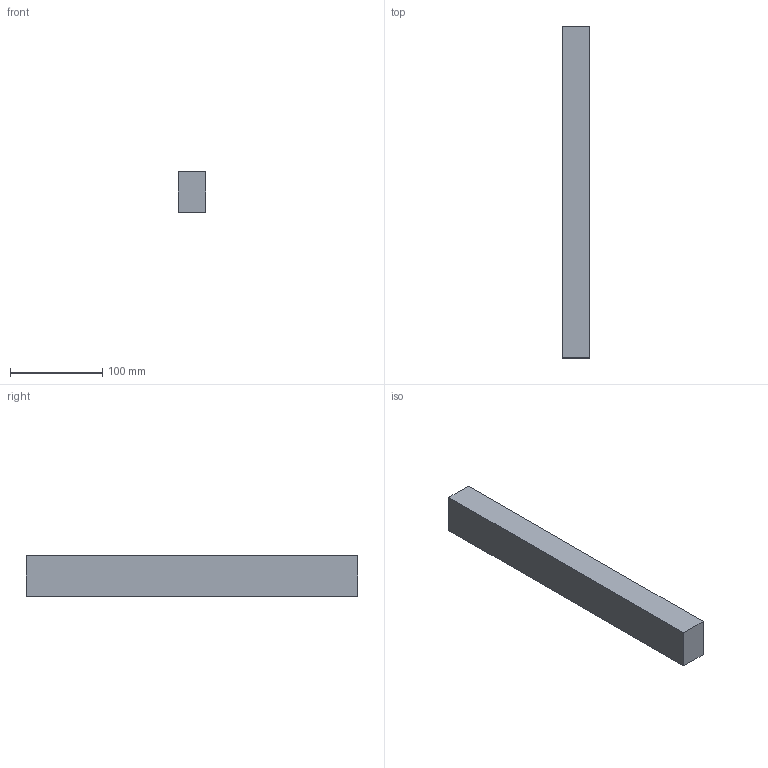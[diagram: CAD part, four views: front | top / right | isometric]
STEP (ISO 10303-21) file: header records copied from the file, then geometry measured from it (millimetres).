
FILE_DESCRIPTION(('Open CASCADE Model'),'2;1');
FILE_NAME('Open CASCADE Shape Model','2026-10-16T18:03:45',('Author'),( 'Open CASCADE'),'Open CASCADE STEP processor 7.8','Open CASCADE 7.8' ,'Unknown');
FILE_SCHEMA(('AUTOMOTIVE_DESIGN { 1 0 10303 214 1 1 1 1 }'));
Length unit declared in the file: millimetre
Products named in the file (1): Open CASCADE STEP translator 7.8 45
Bounding box: 30 x 360 x 44 mm (x, y, z)
Volume: 475200 mm3; surface area: 55920 mm2
Topology: 1 solids, 1 shells, 6 faces, 12 edges, 8 vertices
Faces by surface type: plane 6
Entity records: 322 total; most frequent: CARTESIAN_POINT 51, DIRECTION 50, LINE 36, VECTOR 36, ORIENTED_EDGE 24, PCURVE 24, DEFINITIONAL_REPRESENTATION 24, EDGE_CURVE 12
